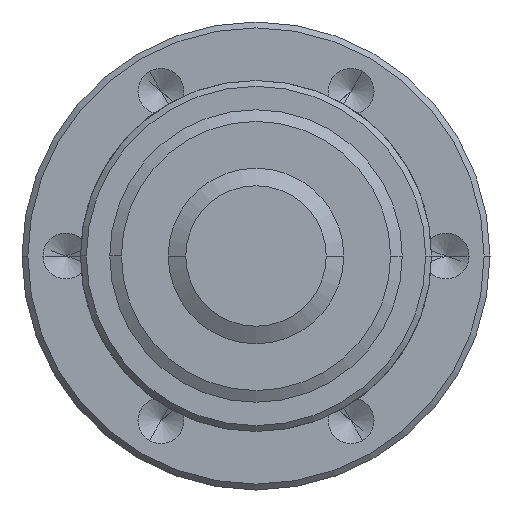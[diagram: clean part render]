
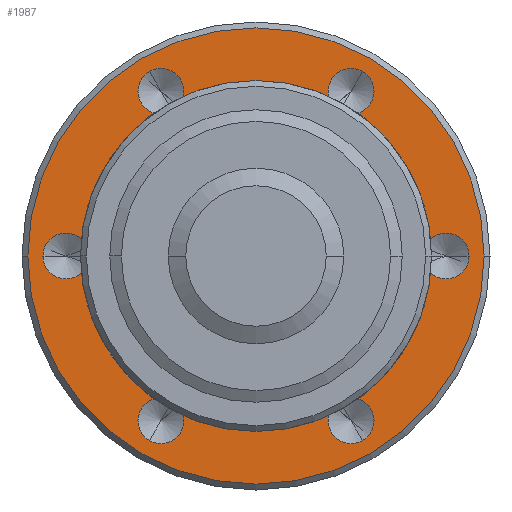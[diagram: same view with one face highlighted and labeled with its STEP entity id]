
A CAD part, left-side view. The second image highlights one B-rep face of the part: STEP entity #1987.
In plain terms, the highlighted planar face has unit normal (-1, 0, 0).
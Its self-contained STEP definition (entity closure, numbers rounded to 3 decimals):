
#97=CARTESIAN_POINT('',(0.,0.,0.));
#98=DIRECTION('',(-1.,0.,0.));
#99=DIRECTION('',(0.,1.,0.));
#100=AXIS2_PLACEMENT_3D('',#97,#98,#99);
#105=CARTESIAN_POINT('',(0.,0.,0.));
#106=DIRECTION('',(-1.,0.,0.));
#107=DIRECTION('',(0.,-1.,0.));
#108=AXIS2_PLACEMENT_3D('',#105,#106,#107);
#113=CARTESIAN_POINT('',(0.,6.5,0.));
#114=DIRECTION('',(1.,0.,0.));
#115=DIRECTION('',(0.,-1.,0.));
#116=AXIS2_PLACEMENT_3D('',#113,#114,#115);
#121=CARTESIAN_POINT('',(0.,6.5,0.));
#122=DIRECTION('',(1.,0.,0.));
#123=DIRECTION('',(0.,1.,0.));
#124=AXIS2_PLACEMENT_3D('',#121,#122,#123);
#129=CARTESIAN_POINT('',(0.,3.25,5.629));
#130=DIRECTION('',(1.,0.,0.));
#131=DIRECTION('',(0.,-0.5,-0.866));
#132=AXIS2_PLACEMENT_3D('',#129,#130,#131);
#137=CARTESIAN_POINT('',(0.,3.25,5.629));
#138=DIRECTION('',(1.,0.,0.));
#139=DIRECTION('',(0.,0.5,0.866));
#140=AXIS2_PLACEMENT_3D('',#137,#138,#139);
#145=CARTESIAN_POINT('',(0.,-3.25,5.629));
#146=DIRECTION('',(1.,0.,0.));
#147=DIRECTION('',(0.,0.5,-0.866));
#148=AXIS2_PLACEMENT_3D('',#145,#146,#147);
#153=CARTESIAN_POINT('',(0.,-3.25,5.629));
#154=DIRECTION('',(1.,0.,0.));
#155=DIRECTION('',(0.,-0.5,0.866));
#156=AXIS2_PLACEMENT_3D('',#153,#154,#155);
#161=CARTESIAN_POINT('',(0.,-6.5,0.));
#162=DIRECTION('',(1.,0.,0.));
#163=DIRECTION('',(0.,1.,0.));
#164=AXIS2_PLACEMENT_3D('',#161,#162,#163);
#169=CARTESIAN_POINT('',(0.,-6.5,0.));
#170=DIRECTION('',(1.,0.,0.));
#171=DIRECTION('',(0.,-1.,0.));
#172=AXIS2_PLACEMENT_3D('',#169,#170,#171);
#177=CARTESIAN_POINT('',(0.,-3.25,-5.629));
#178=DIRECTION('',(1.,0.,0.));
#179=DIRECTION('',(0.,0.5,0.866));
#180=AXIS2_PLACEMENT_3D('',#177,#178,#179);
#185=CARTESIAN_POINT('',(0.,-3.25,-5.629));
#186=DIRECTION('',(1.,0.,0.));
#187=DIRECTION('',(0.,-0.5,-0.866));
#188=AXIS2_PLACEMENT_3D('',#185,#186,#187);
#193=CARTESIAN_POINT('',(0.,3.25,-5.629));
#194=DIRECTION('',(1.,0.,0.));
#195=DIRECTION('',(0.,-0.5,0.866));
#196=AXIS2_PLACEMENT_3D('',#193,#194,#195);
#201=CARTESIAN_POINT('',(0.,3.25,-5.629));
#202=DIRECTION('',(1.,0.,0.));
#203=DIRECTION('',(0.,0.5,-0.866));
#204=AXIS2_PLACEMENT_3D('',#201,#202,#203);
#825=CARTESIAN_POINT('',(0.,0.,0.));
#826=DIRECTION('',(1.,0.,0.));
#827=DIRECTION('',(0.,1.,0.));
#828=AXIS2_PLACEMENT_3D('',#825,#826,#827);
#840=CARTESIAN_POINT('',(0.,0.,0.));
#841=DIRECTION('',(-1.,0.,0.));
#842=DIRECTION('',(0.,1.,0.));
#843=AXIS2_PLACEMENT_3D('',#840,#841,#842);
#1644=CARTESIAN_POINT('',(0.,5.715,0.));
#1645=CARTESIAN_POINT('',(0.,7.285,0.));
#1646=VERTEX_POINT('',#1644);
#1647=VERTEX_POINT('',#1645);
#1654=CARTESIAN_POINT('',(0.,2.858,4.949));
#1655=CARTESIAN_POINT('',(0.,3.643,6.309));
#1656=VERTEX_POINT('',#1654);
#1657=VERTEX_POINT('',#1655);
#1664=CARTESIAN_POINT('',(0.,-2.858,4.949));
#1665=CARTESIAN_POINT('',(0.,-3.643,6.309));
#1666=VERTEX_POINT('',#1664);
#1667=VERTEX_POINT('',#1665);
#1674=CARTESIAN_POINT('',(0.,-5.715,0.));
#1675=CARTESIAN_POINT('',(0.,-7.285,0.));
#1676=VERTEX_POINT('',#1674);
#1677=VERTEX_POINT('',#1675);
#1684=CARTESIAN_POINT('',(0.,-2.858,-4.949));
#1685=CARTESIAN_POINT('',(0.,-3.643,-6.309));
#1686=VERTEX_POINT('',#1684);
#1687=VERTEX_POINT('',#1685);
#1694=CARTESIAN_POINT('',(0.,2.858,-4.949));
#1695=CARTESIAN_POINT('',(0.,3.643,-6.309));
#1696=VERTEX_POINT('',#1694);
#1697=VERTEX_POINT('',#1695);
#1698=CARTESIAN_POINT('',(0.,7.8,0.));
#1699=CARTESIAN_POINT('',(0.,-7.8,0.));
#1700=VERTEX_POINT('',#1698);
#1701=VERTEX_POINT('',#1699);
#1734=CARTESIAN_POINT('',(0.,5.,0.));
#1736=VERTEX_POINT('',#1734);
#1742=CARTESIAN_POINT('',(0.,-5.,0.));
#1744=VERTEX_POINT('',#1742);
#1935=CARTESIAN_POINT('',(0.,0.,0.));
#1936=DIRECTION('',(-1.,0.,0.));
#1937=DIRECTION('',(0.,1.,0.));
#1938=AXIS2_PLACEMENT_3D('',#1935,#1936,#1937);
#1939=PLANE('',#1938);
#1940=ORIENTED_EDGE('',*,*,#1913,.F.);
#1942=ORIENTED_EDGE('',*,*,#1941,.F.);
#1943=EDGE_LOOP('',(#1940,#1942));
#1944=FACE_OUTER_BOUND('',#1943,.F.);
#1946=ORIENTED_EDGE('',*,*,#1945,.F.);
#1948=ORIENTED_EDGE('',*,*,#1947,.T.);
#1949=EDGE_LOOP('',(#1946,#1948));
#1950=FACE_BOUND('',#1949,.F.);
#1952=ORIENTED_EDGE('',*,*,#1951,.F.);
#1954=ORIENTED_EDGE('',*,*,#1953,.F.);
#1955=EDGE_LOOP('',(#1952,#1954));
#1956=FACE_BOUND('',#1955,.F.);
#1958=ORIENTED_EDGE('',*,*,#1957,.F.);
#1960=ORIENTED_EDGE('',*,*,#1959,.F.);
#1961=EDGE_LOOP('',(#1958,#1960));
#1962=FACE_BOUND('',#1961,.F.);
#1964=ORIENTED_EDGE('',*,*,#1963,.F.);
#1966=ORIENTED_EDGE('',*,*,#1965,.F.);
#1967=EDGE_LOOP('',(#1964,#1966));
#1968=FACE_BOUND('',#1967,.F.);
#1970=ORIENTED_EDGE('',*,*,#1969,.F.);
#1972=ORIENTED_EDGE('',*,*,#1971,.F.);
#1973=EDGE_LOOP('',(#1970,#1972));
#1974=FACE_BOUND('',#1973,.F.);
#1976=ORIENTED_EDGE('',*,*,#1975,.F.);
#1978=ORIENTED_EDGE('',*,*,#1977,.F.);
#1979=EDGE_LOOP('',(#1976,#1978));
#1980=FACE_BOUND('',#1979,.F.);
#1982=ORIENTED_EDGE('',*,*,#1981,.F.);
#1984=ORIENTED_EDGE('',*,*,#1983,.F.);
#1985=EDGE_LOOP('',(#1982,#1984));
#1986=FACE_BOUND('',#1985,.F.);
#1987=ADVANCED_FACE('',(#1944,#1950,#1956,#1962,#1968,#1974,#1980,#1986),#1939,
.T.);
#101=CIRCLE('',#100,7.8);
#109=CIRCLE('',#108,7.8);
#117=CIRCLE('',#116,0.785);
#125=CIRCLE('',#124,0.785);
#133=CIRCLE('',#132,0.785);
#141=CIRCLE('',#140,0.785);
#149=CIRCLE('',#148,0.785);
#157=CIRCLE('',#156,0.785);
#165=CIRCLE('',#164,0.785);
#173=CIRCLE('',#172,0.785);
#181=CIRCLE('',#180,0.785);
#189=CIRCLE('',#188,0.785);
#197=CIRCLE('',#196,0.785);
#205=CIRCLE('',#204,0.785);
#829=CIRCLE('',#828,5.);
#844=CIRCLE('',#843,5.);
#1913=EDGE_CURVE('',#1700,#1701,#101,.T.);
#1941=EDGE_CURVE('',#1701,#1700,#109,.T.);
#1945=EDGE_CURVE('',#1736,#1744,#829,.T.);
#1947=EDGE_CURVE('',#1736,#1744,#844,.T.);
#1951=EDGE_CURVE('',#1646,#1647,#117,.T.);
#1953=EDGE_CURVE('',#1647,#1646,#125,.T.);
#1957=EDGE_CURVE('',#1656,#1657,#133,.T.);
#1959=EDGE_CURVE('',#1657,#1656,#141,.T.);
#1963=EDGE_CURVE('',#1666,#1667,#149,.T.);
#1965=EDGE_CURVE('',#1667,#1666,#157,.T.);
#1969=EDGE_CURVE('',#1676,#1677,#165,.T.);
#1971=EDGE_CURVE('',#1677,#1676,#173,.T.);
#1975=EDGE_CURVE('',#1686,#1687,#181,.T.);
#1977=EDGE_CURVE('',#1687,#1686,#189,.T.);
#1981=EDGE_CURVE('',#1696,#1697,#197,.T.);
#1983=EDGE_CURVE('',#1697,#1696,#205,.T.);
